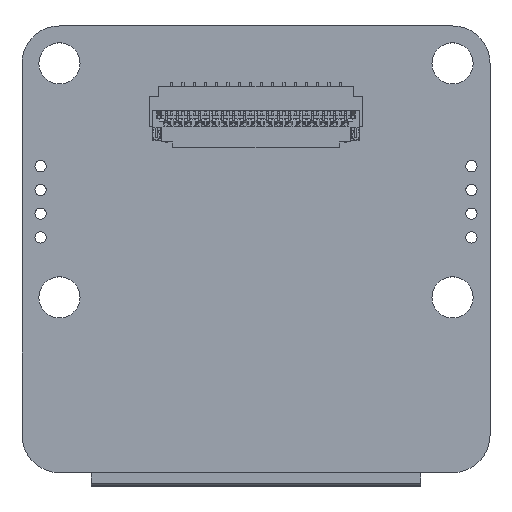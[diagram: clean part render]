
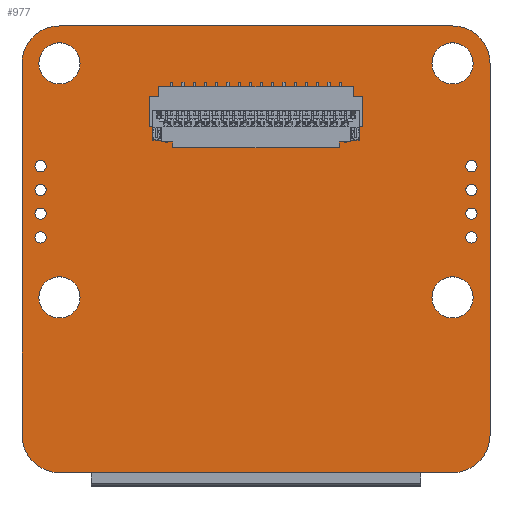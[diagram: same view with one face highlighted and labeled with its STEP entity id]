
A CAD part, top view. The second image highlights one B-rep face of the part: STEP entity #977.
In plain terms, the highlighted planar face has unit normal (0, 0, 1).
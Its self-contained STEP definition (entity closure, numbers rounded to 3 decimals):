
#280 = VERTEX_POINT('',#281);
#281 = CARTESIAN_POINT('',(-12.5,-7.362,1.142));
#287 = EDGE_CURVE('',#280,#288,#290,.T.);
#288 = VERTEX_POINT('',#289);
#289 = CARTESIAN_POINT('',(-12.5,12.5,1.142));
#290 = LINE('',#291,#292);
#291 = CARTESIAN_POINT('',(-12.5,-7.362,1.142));
#292 = VECTOR('',#293,1.);
#293 = DIRECTION('',(0.,1.,0.));
#318 = EDGE_CURVE('',#288,#319,#321,.T.);
#319 = VERTEX_POINT('',#320);
#320 = CARTESIAN_POINT('',(-10.5,14.5,1.142));
#321 = CIRCLE('',#322,2.001);
#322 = AXIS2_PLACEMENT_3D('',#323,#324,#325);
#323 = CARTESIAN_POINT('',(-10.499,12.499,1.142));
#324 = DIRECTION('',(0.,0.,-1.));
#325 = DIRECTION('',(-1.,0.,0.));
#351 = EDGE_CURVE('',#319,#352,#354,.T.);
#352 = VERTEX_POINT('',#353);
#353 = CARTESIAN_POINT('',(10.5,14.5,1.142));
#354 = LINE('',#355,#356);
#355 = CARTESIAN_POINT('',(-10.5,14.5,1.142));
#356 = VECTOR('',#357,1.);
#357 = DIRECTION('',(1.,0.,0.));
#382 = EDGE_CURVE('',#352,#383,#385,.T.);
#383 = VERTEX_POINT('',#384);
#384 = CARTESIAN_POINT('',(12.5,12.5,1.142));
#385 = CIRCLE('',#386,2.001);
#386 = AXIS2_PLACEMENT_3D('',#387,#388,#389);
#387 = CARTESIAN_POINT('',(10.499,12.499,1.142));
#388 = DIRECTION('',(0.,0.,-1.));
#389 = DIRECTION('',(0.,1.,0.));
#415 = EDGE_CURVE('',#383,#416,#418,.T.);
#416 = VERTEX_POINT('',#417);
#417 = CARTESIAN_POINT('',(12.5,-7.362,1.142));
#418 = LINE('',#419,#420);
#419 = CARTESIAN_POINT('',(12.5,12.5,1.142));
#420 = VECTOR('',#421,1.);
#421 = DIRECTION('',(0.,-1.,0.));
#446 = EDGE_CURVE('',#416,#447,#449,.T.);
#447 = VERTEX_POINT('',#448);
#448 = CARTESIAN_POINT('',(10.5,-9.362,1.142));
#449 = CIRCLE('',#450,2.001);
#450 = AXIS2_PLACEMENT_3D('',#451,#452,#453);
#451 = CARTESIAN_POINT('',(10.499,-7.361,1.142));
#452 = DIRECTION('',(0.,0.,-1.));
#453 = DIRECTION('',(1.,0.,0.));
#479 = EDGE_CURVE('',#447,#480,#482,.T.);
#480 = VERTEX_POINT('',#481);
#481 = CARTESIAN_POINT('',(-10.5,-9.362,1.142));
#482 = LINE('',#483,#484);
#483 = CARTESIAN_POINT('',(10.5,-9.362,1.142));
#484 = VECTOR('',#485,1.);
#485 = DIRECTION('',(-1.,0.,0.));
#510 = EDGE_CURVE('',#480,#280,#511,.T.);
#511 = CIRCLE('',#512,2.001);
#512 = AXIS2_PLACEMENT_3D('',#513,#514,#515);
#513 = CARTESIAN_POINT('',(-10.499,-7.361,1.142));
#514 = DIRECTION('',(0.,0.,-1.));
#515 = DIRECTION('',(0.,-1.,0.));
#536 = VERTEX_POINT('',#537);
#537 = CARTESIAN_POINT('',(-11.206,4.47,1.142));
#543 = EDGE_CURVE('',#536,#536,#544,.T.);
#544 = CIRCLE('',#545,0.3);
#545 = AXIS2_PLACEMENT_3D('',#546,#547,#548);
#546 = CARTESIAN_POINT('',(-11.506,4.47,1.142));
#547 = DIRECTION('',(0.,0.,1.));
#548 = DIRECTION('',(1.,0.,0.));
#569 = VERTEX_POINT('',#570);
#570 = CARTESIAN_POINT('',(-9.4,0.,1.142));
#576 = EDGE_CURVE('',#569,#569,#577,.T.);
#577 = CIRCLE('',#578,1.1);
#578 = AXIS2_PLACEMENT_3D('',#579,#580,#581);
#579 = CARTESIAN_POINT('',(-10.5,0.,1.142));
#580 = DIRECTION('',(0.,0.,1.));
#581 = DIRECTION('',(1.,0.,0.));
#602 = VERTEX_POINT('',#603);
#603 = CARTESIAN_POINT('',(-11.206,3.2,1.142));
#609 = EDGE_CURVE('',#602,#602,#610,.T.);
#610 = CIRCLE('',#611,0.3);
#611 = AXIS2_PLACEMENT_3D('',#612,#613,#614);
#612 = CARTESIAN_POINT('',(-11.506,3.2,1.142));
#613 = DIRECTION('',(0.,0.,1.));
#614 = DIRECTION('',(1.,0.,0.));
#635 = VERTEX_POINT('',#636);
#636 = CARTESIAN_POINT('',(-11.206,5.74,1.142));
#642 = EDGE_CURVE('',#635,#635,#643,.T.);
#643 = CIRCLE('',#644,0.3);
#644 = AXIS2_PLACEMENT_3D('',#645,#646,#647);
#645 = CARTESIAN_POINT('',(-11.506,5.74,1.142));
#646 = DIRECTION('',(0.,0.,1.));
#647 = DIRECTION('',(1.,0.,0.));
#668 = VERTEX_POINT('',#669);
#669 = CARTESIAN_POINT('',(-11.206,7.01,1.142));
#675 = EDGE_CURVE('',#668,#668,#676,.T.);
#676 = CIRCLE('',#677,0.3);
#677 = AXIS2_PLACEMENT_3D('',#678,#679,#680);
#678 = CARTESIAN_POINT('',(-11.506,7.01,1.142));
#679 = DIRECTION('',(0.,0.,1.));
#680 = DIRECTION('',(1.,0.,0.));
#701 = VERTEX_POINT('',#702);
#702 = CARTESIAN_POINT('',(-9.4,12.5,1.142));
#708 = EDGE_CURVE('',#701,#701,#709,.T.);
#709 = CIRCLE('',#710,1.1);
#710 = AXIS2_PLACEMENT_3D('',#711,#712,#713);
#711 = CARTESIAN_POINT('',(-10.5,12.5,1.142));
#712 = DIRECTION('',(0.,0.,1.));
#713 = DIRECTION('',(1.,0.,0.));
#734 = VERTEX_POINT('',#735);
#735 = CARTESIAN_POINT('',(11.6,0.,1.142));
#741 = EDGE_CURVE('',#734,#734,#742,.T.);
#742 = CIRCLE('',#743,1.1);
#743 = AXIS2_PLACEMENT_3D('',#744,#745,#746);
#744 = CARTESIAN_POINT('',(10.5,0.,1.142));
#745 = DIRECTION('',(0.,0.,1.));
#746 = DIRECTION('',(1.,0.,0.));
#767 = VERTEX_POINT('',#768);
#768 = CARTESIAN_POINT('',(11.806,3.2,1.142));
#774 = EDGE_CURVE('',#767,#767,#775,.T.);
#775 = CIRCLE('',#776,0.3);
#776 = AXIS2_PLACEMENT_3D('',#777,#778,#779);
#777 = CARTESIAN_POINT('',(11.506,3.2,1.142));
#778 = DIRECTION('',(0.,0.,1.));
#779 = DIRECTION('',(1.,0.,0.));
#800 = VERTEX_POINT('',#801);
#801 = CARTESIAN_POINT('',(11.806,4.47,1.142));
#807 = EDGE_CURVE('',#800,#800,#808,.T.);
#808 = CIRCLE('',#809,0.3);
#809 = AXIS2_PLACEMENT_3D('',#810,#811,#812);
#810 = CARTESIAN_POINT('',(11.506,4.47,1.142));
#811 = DIRECTION('',(0.,0.,1.));
#812 = DIRECTION('',(1.,0.,0.));
#833 = VERTEX_POINT('',#834);
#834 = CARTESIAN_POINT('',(11.6,12.5,1.142));
#840 = EDGE_CURVE('',#833,#833,#841,.T.);
#841 = CIRCLE('',#842,1.1);
#842 = AXIS2_PLACEMENT_3D('',#843,#844,#845);
#843 = CARTESIAN_POINT('',(10.5,12.5,1.142));
#844 = DIRECTION('',(0.,0.,1.));
#845 = DIRECTION('',(1.,0.,0.));
#866 = VERTEX_POINT('',#867);
#867 = CARTESIAN_POINT('',(11.806,5.74,1.142));
#873 = EDGE_CURVE('',#866,#866,#874,.T.);
#874 = CIRCLE('',#875,0.3);
#875 = AXIS2_PLACEMENT_3D('',#876,#877,#878);
#876 = CARTESIAN_POINT('',(11.506,5.74,1.142));
#877 = DIRECTION('',(0.,0.,1.));
#878 = DIRECTION('',(1.,0.,0.));
#899 = VERTEX_POINT('',#900);
#900 = CARTESIAN_POINT('',(11.806,7.01,1.142));
#906 = EDGE_CURVE('',#899,#899,#907,.T.);
#907 = CIRCLE('',#908,0.3);
#908 = AXIS2_PLACEMENT_3D('',#909,#910,#911);
#909 = CARTESIAN_POINT('',(11.506,7.01,1.142));
#910 = DIRECTION('',(0.,0.,1.));
#911 = DIRECTION('',(1.,0.,0.));
#977 = ADVANCED_FACE('',(#978,#988,#991,#994,#997,#1000,#1003,#1006,
    #1009,#1012,#1015,#1018,#1021),#1024,.T.);
#978 = FACE_BOUND('',#979,.F.);
#979 = EDGE_LOOP('',(#980,#981,#982,#983,#984,#985,#986,#987));
#980 = ORIENTED_EDGE('',*,*,#287,.T.);
#981 = ORIENTED_EDGE('',*,*,#318,.T.);
#982 = ORIENTED_EDGE('',*,*,#351,.T.);
#983 = ORIENTED_EDGE('',*,*,#382,.T.);
#984 = ORIENTED_EDGE('',*,*,#415,.T.);
#985 = ORIENTED_EDGE('',*,*,#446,.T.);
#986 = ORIENTED_EDGE('',*,*,#479,.T.);
#987 = ORIENTED_EDGE('',*,*,#510,.T.);
#988 = FACE_BOUND('',#989,.T.);
#989 = EDGE_LOOP('',(#990));
#990 = ORIENTED_EDGE('',*,*,#543,.F.);
#991 = FACE_BOUND('',#992,.T.);
#992 = EDGE_LOOP('',(#993));
#993 = ORIENTED_EDGE('',*,*,#576,.F.);
#994 = FACE_BOUND('',#995,.T.);
#995 = EDGE_LOOP('',(#996));
#996 = ORIENTED_EDGE('',*,*,#609,.F.);
#997 = FACE_BOUND('',#998,.T.);
#998 = EDGE_LOOP('',(#999));
#999 = ORIENTED_EDGE('',*,*,#642,.F.);
#1000 = FACE_BOUND('',#1001,.T.);
#1001 = EDGE_LOOP('',(#1002));
#1002 = ORIENTED_EDGE('',*,*,#675,.F.);
#1003 = FACE_BOUND('',#1004,.T.);
#1004 = EDGE_LOOP('',(#1005));
#1005 = ORIENTED_EDGE('',*,*,#708,.F.);
#1006 = FACE_BOUND('',#1007,.T.);
#1007 = EDGE_LOOP('',(#1008));
#1008 = ORIENTED_EDGE('',*,*,#741,.F.);
#1009 = FACE_BOUND('',#1010,.T.);
#1010 = EDGE_LOOP('',(#1011));
#1011 = ORIENTED_EDGE('',*,*,#774,.F.);
#1012 = FACE_BOUND('',#1013,.T.);
#1013 = EDGE_LOOP('',(#1014));
#1014 = ORIENTED_EDGE('',*,*,#807,.F.);
#1015 = FACE_BOUND('',#1016,.T.);
#1016 = EDGE_LOOP('',(#1017));
#1017 = ORIENTED_EDGE('',*,*,#840,.F.);
#1018 = FACE_BOUND('',#1019,.T.);
#1019 = EDGE_LOOP('',(#1020));
#1020 = ORIENTED_EDGE('',*,*,#873,.F.);
#1021 = FACE_BOUND('',#1022,.T.);
#1022 = EDGE_LOOP('',(#1023));
#1023 = ORIENTED_EDGE('',*,*,#906,.F.);
#1024 = PLANE('',#1025);
#1025 = AXIS2_PLACEMENT_3D('',#1026,#1027,#1028);
#1026 = CARTESIAN_POINT('',(-12.5,-7.362,1.142));
#1027 = DIRECTION('',(0.,0.,1.));
#1028 = DIRECTION('',(1.,0.,0.));
